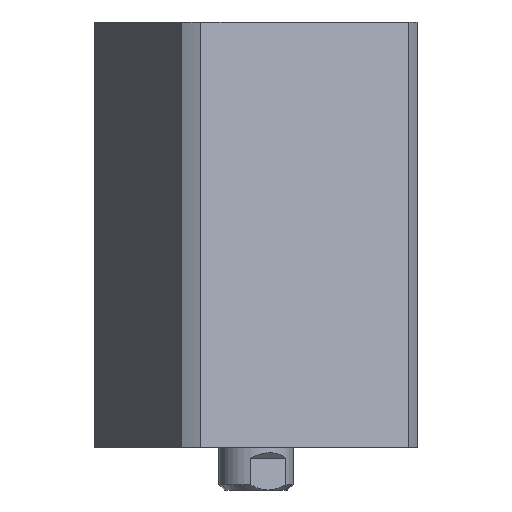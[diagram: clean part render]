
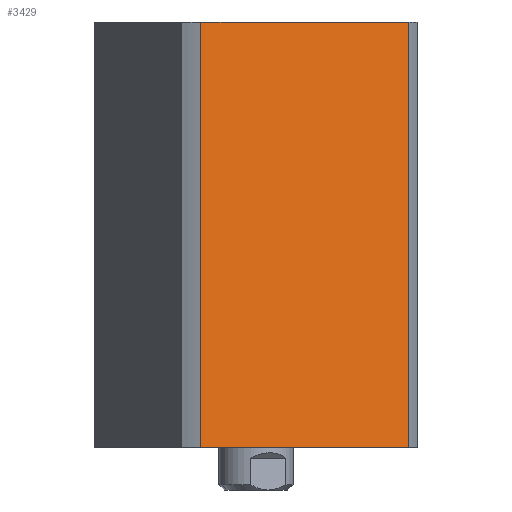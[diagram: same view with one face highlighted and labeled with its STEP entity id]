
A CAD part, left-side view. The second image highlights one B-rep face of the part: STEP entity #3429.
In plain terms, the highlighted planar face has unit normal (-0.924, -0.383, 0) as drawn and (1, 0, 0) by its records, which use the part's own axes.
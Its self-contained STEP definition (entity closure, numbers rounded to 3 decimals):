
#205 = VECTOR ( 'NONE', #3246, 1000. ) ;
#208 = DIRECTION ( 'NONE',  ( 0., -1., 0. ) ) ;
#285 = CARTESIAN_POINT ( 'NONE',  ( 24., -21.166, 0. ) ) ;
#331 = CARTESIAN_POINT ( 'NONE',  ( 24., 24., 0. ) ) ;
#891 = ORIENTED_EDGE ( 'NONE', *, *, #1919, .F. ) ;
#979 = VERTEX_POINT ( 'NONE', #5271 ) ;
#1225 = EDGE_CURVE ( 'NONE', #7559, #979, #2244, .T. ) ;
#1350 = EDGE_CURVE ( 'NONE', #979, #7366, #1852, .T. ) ;
#1579 = VECTOR ( 'NONE', #2194, 1000. ) ;
#1852 = LINE ( 'NONE', #7570, #205 ) ;
#1919 = EDGE_CURVE ( 'NONE', #7366, #7202, #1948, .T. ) ;
#1948 = LINE ( 'NONE', #2174, #3410 ) ;
#2174 = CARTESIAN_POINT ( 'NONE',  ( 24., 21.166, -520. ) ) ;
#2194 = DIRECTION ( 'NONE',  ( 0., 1., 0. ) ) ;
#2244 = LINE ( 'NONE', #4406, #7023 ) ;
#2342 = FACE_OUTER_BOUND ( 'NONE', #5010, .T. ) ;
#2901 = EDGE_CURVE ( 'NONE', #7559, #7202, #4692, .T. ) ;
#3036 = ORIENTED_EDGE ( 'NONE', *, *, #2901, .T. ) ;
#3246 = DIRECTION ( 'NONE',  ( 0., 1., 0. ) ) ;
#3410 = VECTOR ( 'NONE', #4017, 1000. ) ;
#3429 = ADVANCED_FACE ( 'NONE', ( #2342 ), #7015, .F. ) ;
#3943 = DIRECTION ( 'NONE',  ( -1., 0., 0. ) ) ;
#4017 = DIRECTION ( 'NONE',  ( 0., 0., -1. ) ) ;
#4406 = CARTESIAN_POINT ( 'NONE',  ( 24., -21.166, -520. ) ) ;
#4610 = ORIENTED_EDGE ( 'NONE', *, *, #1350, .F. ) ;
#4692 = LINE ( 'NONE', #331, #1579 ) ;
#5010 = EDGE_LOOP ( 'NONE', ( #7537, #3036, #891, #4610 ) ) ;
#5271 = CARTESIAN_POINT ( 'NONE',  ( 24., -21.166, 80. ) ) ;
#5468 = CARTESIAN_POINT ( 'NONE',  ( 24., 21.166, 0. ) ) ;
#5663 = DIRECTION ( 'NONE',  ( 0., 0., 1. ) ) ;
#6256 = AXIS2_PLACEMENT_3D ( 'NONE', #7670, #3943, #208 ) ;
#6298 = CARTESIAN_POINT ( 'NONE',  ( 24., 21.166, 80. ) ) ;
#7015 = PLANE ( 'NONE',  #6256 ) ;
#7023 = VECTOR ( 'NONE', #5663, 1000. ) ;
#7202 = VERTEX_POINT ( 'NONE', #5468 ) ;
#7366 = VERTEX_POINT ( 'NONE', #6298 ) ;
#7537 = ORIENTED_EDGE ( 'NONE', *, *, #1225, .F. ) ;
#7559 = VERTEX_POINT ( 'NONE', #285 ) ;
#7570 = CARTESIAN_POINT ( 'NONE',  ( 24., 24., 80. ) ) ;
#7670 = CARTESIAN_POINT ( 'NONE',  ( 24., 24., 80. ) ) ;
